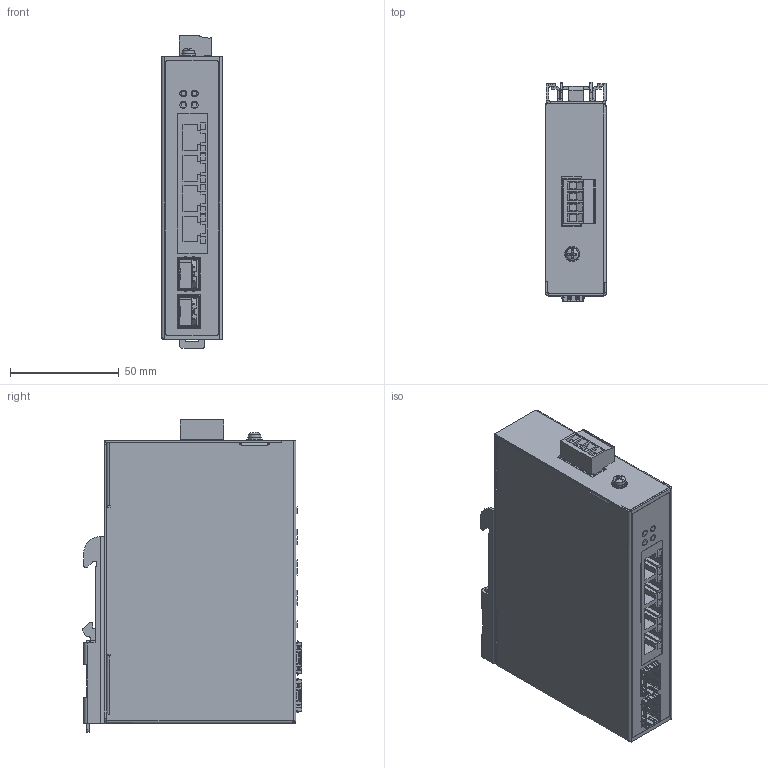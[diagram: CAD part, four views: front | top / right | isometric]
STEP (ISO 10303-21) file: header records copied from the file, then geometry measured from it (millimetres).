
FILE_DESCRIPTION(/* description */ ('STEP AP242','CAx-IF Rec.Pracs.---Representation and Presentation of Product Manufacturing Information (PMI)---4.0---2014-10-13','CAx-IF Rec.Pracs.---3D Tessellated Geometry---0.4---2014-09-14','2;1'),/* implementation_level */ '2;1');
FILE_NAME(/* name */ '6810f759f393d86b34d45c50',/* time_stamp */ '2025-04-29T15:59:24Z',/* author */ (''),/* organization */ (''),/* preprocessor_version */ 'ST-DEVELOPER v20',/* originating_system */ 'ONSHAPE BY PTC INC, 1.197',/* authorisation */ ' ');
FILE_SCHEMA (('AP242_MANAGED_MODEL_BASED_3D_ENGINEERING_MIM_LF { 1 0 10303 442 1 1 4 }'));
Products named in the file (18): SD-024 - Rev A - Unmanaged 6 Port 10G Ethernet Switch; PH Countersunk flat head screw M3x0.5 x 5; Front Label; Plain washer normal grade A M3; Spring lock washer A3; U77-A1118-X00T; PRT0008; Terminal Block; PH Pan head screw M3x0.50 x 6; DIN Clip <1>; DIN Clip - 2; DIN Clip - 1; Rear Housing <1>; PEM CLS-M3-2  ; Rear Housing; Plug; Front Housing <1>; Front Housing
Assembly tree (28 placements, depth 3):
  SD-024 - Rev A - Unmanaged 6 Port 10G Ethernet Switch
    PH Countersunk flat head screw M3x0.5 x 5  x8
    Front Label
    Plain washer normal grade A M3
    Spring lock washer A3
    U77-A1118-X00T  x2
    PRT0008
    Terminal Block
    PH Pan head screw M3x0.50 x 6
    DIN Clip <1>
      DIN Clip - 2
      DIN Clip - 1
    Rear Housing <1>
      PEM CLS-M3-2    x3
      Rear Housing
    Plug
    Front Housing <1>
      PEM CLS-M3-2  
      Front Housing
Bounding box: 28 x 100.69 x 143.5 mm (x, y, z)
Volume: 60648.8 mm3; surface area: 105305.3 mm2
Topology: 25 solids, 25 shells, 3985 faces, 10999 edges, 7093 vertices
Faces by surface type: plane 2596, cylinder 1186, bspline 123, cone 54, torus 17, sphere 9
Full cylindrical faces by diameter (mm): 1.4 x4, 2 x28, 2.459 x4, 2.5 x5, 2.75 x1, 2.8 x6, 3 x10, 3.2 x4, 3.783 x4, 4 x4, 4.2 x4, 4.22 x4, 5.5 x8, 5.6 x1, 6.35 x4, 7 x1
Entity records: 75166 total; most frequent: CARTESIAN_POINT 15689, ORIENTED_EDGE 12404, DIRECTION 12032, EDGE_CURVE 6202, LINE 4400, VECTOR 4400, VERTEX_POINT 4017, AXIS2_PLACEMENT_3D 3816
